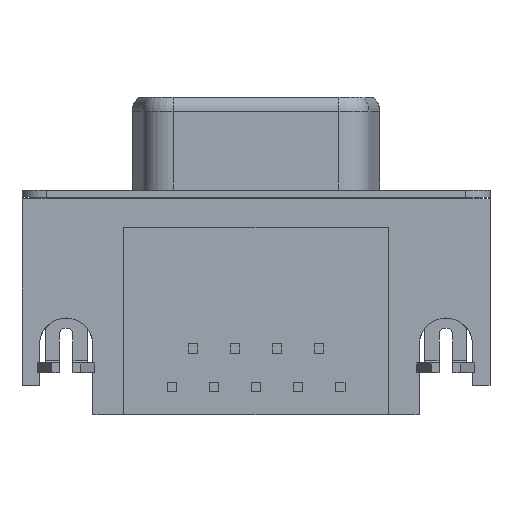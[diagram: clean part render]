
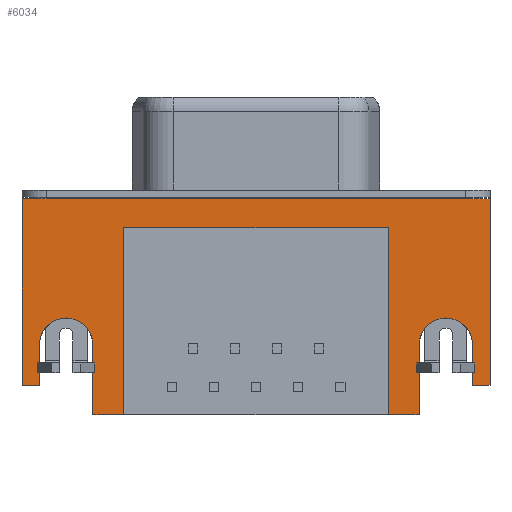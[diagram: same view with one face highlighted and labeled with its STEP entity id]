
A CAD part, front view. The second image highlights one B-rep face of the part: STEP entity #6034.
In plain terms, the highlighted planar face has unit normal (0, -1, 0).
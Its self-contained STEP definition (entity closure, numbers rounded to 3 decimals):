
#17 = DIRECTION ( 'NONE',  ( 0., 0., -1. ) ) ;
#18 = DIRECTION ( 'NONE',  ( 0., 1., 0. ) ) ;
#19 = CARTESIAN_POINT ( 'NONE',  ( -12.495, -7.3, -16.28 ) ) ;
#20 = AXIS2_PLACEMENT_3D ( 'NONE', #19, #18, #17 ) ;
#21 = CIRCLE ( 'NONE', #20, 1.76 ) ;
#22 = CARTESIAN_POINT ( 'NONE',  ( -14.255, -7.3, -16.28 ) ) ;
#61 = DIRECTION ( 'NONE',  ( 1., 0., 0. ) ) ;
#62 = VECTOR ( 'NONE', #61, 1000. ) ;
#63 = CARTESIAN_POINT ( 'NONE',  ( -15.4, -7.3, -18.95 ) ) ;
#64 = LINE ( 'NONE', #63, #62 ) ;
#65 = CARTESIAN_POINT ( 'NONE',  ( 14.255, -7.3, -18.95 ) ) ;
#66 = DIRECTION ( 'NONE',  ( 0., 0., -1. ) ) ;
#67 = VECTOR ( 'NONE', #66, 1000. ) ;
#68 = CARTESIAN_POINT ( 'NONE',  ( 14.255, -7.3, -6.57 ) ) ;
#72 = LINE ( 'NONE', #68, #67 ) ;
#87 = DIRECTION ( 'NONE',  ( 0., 0., 1. ) ) ;
#88 = VECTOR ( 'NONE', #87, 1000. ) ;
#89 = CARTESIAN_POINT ( 'NONE',  ( -14.255, -7.3, -6.57 ) ) ;
#90 = LINE ( 'NONE', #89, #88 ) ;
#5028 = ORIENTED_EDGE ( 'NONE', *, *, #5107, .T. ) ;
#5107 = EDGE_CURVE ( 'NONE', #5840, #5864, #8492, .T. ) ;
#5840 = VERTEX_POINT ( 'NONE', #8488 ) ;
#5842 = ORIENTED_EDGE ( 'NONE', *, *, #5844, .T. ) ;
#5843 = VERTEX_POINT ( 'NONE', #8487 ) ;
#5844 = EDGE_CURVE ( 'NONE', #5843, #5840, #8486, .T. ) ;
#5845 = EDGE_CURVE ( 'NONE', #5846, #5843, #8482, .T. ) ;
#5846 = VERTEX_POINT ( 'NONE', #8478 ) ;
#5847 = ORIENTED_EDGE ( 'NONE', *, *, #5845, .T. ) ;
#5848 = EDGE_CURVE ( 'NONE', #5850, #5856, #8540, .T. ) ;
#5849 = EDGE_CURVE ( 'NONE', #5853, #5846, #8536, .T. ) ;
#5850 = VERTEX_POINT ( 'NONE', #8532 ) ;
#5851 = ORIENTED_EDGE ( 'NONE', *, *, #5848, .T. ) ;
#5852 = VERTEX_POINT ( 'NONE', #8531 ) ;
#5853 = VERTEX_POINT ( 'NONE', #8530 ) ;
#5854 = ORIENTED_EDGE ( 'NONE', *, *, #5855, .T. ) ;
#5855 = EDGE_CURVE ( 'NONE', #5856, #5852, #8529, .T. ) ;
#5856 = VERTEX_POINT ( 'NONE', #8525 ) ;
#5858 = ORIENTED_EDGE ( 'NONE', *, *, #5866, .T. ) ;
#5859 = ORIENTED_EDGE ( 'NONE', *, *, #5849, .T. ) ;
#5860 = EDGE_CURVE ( 'NONE', #5864, #5862, #8524, .T. ) ;
#5862 = VERTEX_POINT ( 'NONE', #8515 ) ;
#5864 = VERTEX_POINT ( 'NONE', #8511 ) ;
#5865 = ORIENTED_EDGE ( 'NONE', *, *, #5860, .T. ) ;
#5866 = EDGE_CURVE ( 'NONE', #5852, #5853, #8571, .T. ) ;
#5867 = ORIENTED_EDGE ( 'NONE', *, *, #6253, .T. ) ;
#5871 = EDGE_CURVE ( 'NONE', #6123, #5872, #8561, .T. ) ;
#5872 = VERTEX_POINT ( 'NONE', #8557 ) ;
#6015 = ORIENTED_EDGE ( 'NONE', *, *, #6021, .F. ) ;
#6016 = ORIENTED_EDGE ( 'NONE', *, *, #6018, .F. ) ;
#6017 = VERTEX_POINT ( 'NONE', #8825 ) ;
#6018 = EDGE_CURVE ( 'NONE', #6123, #6017, #8824, .T. ) ;
#6019 = VERTEX_POINT ( 'NONE', #8820 ) ;
#6020 = VERTEX_POINT ( 'NONE', #8819 ) ;
#6021 = EDGE_CURVE ( 'NONE', #6017, #6020, #8818, .T. ) ;
#6024 = ORIENTED_EDGE ( 'NONE', *, *, #6036, .F. ) ;
#6033 = EDGE_LOOP ( 'NONE', ( #6024, #6015, #6016, #6187, #5867, #6234, #5851, #5854, #5858, #5859, #5847, #5842, #5028, #5865, #6264, #6267 ) ) ;
#6034 = ADVANCED_FACE ( 'NONE', ( #8853 ), #8852, .T. ) ;
#6036 = EDGE_CURVE ( 'NONE', #6020, #6019, #8847, .T. ) ;
#6123 = VERTEX_POINT ( 'NONE', #9003 ) ;
#6187 = ORIENTED_EDGE ( 'NONE', *, *, #5871, .T. ) ;
#6233 = VERTEX_POINT ( 'NONE', #22 ) ;
#6234 = ORIENTED_EDGE ( 'NONE', *, *, #6235, .T. ) ;
#6235 = EDGE_CURVE ( 'NONE', #6233, #5850, #21, .T. ) ;
#6253 = EDGE_CURVE ( 'NONE', #5872, #6233, #90, .T. ) ;
#6264 = ORIENTED_EDGE ( 'NONE', *, *, #6265, .T. ) ;
#6265 = EDGE_CURVE ( 'NONE', #5862, #6266, #72, .T. ) ;
#6266 = VERTEX_POINT ( 'NONE', #65 ) ;
#6267 = ORIENTED_EDGE ( 'NONE', *, *, #6268, .T. ) ;
#6268 = EDGE_CURVE ( 'NONE', #6266, #6019, #64, .T. ) ;
#8478 = CARTESIAN_POINT ( 'NONE',  ( 8.7, -7.3, -8.57 ) ) ;
#8479 = DIRECTION ( 'NONE',  ( 0., 0., -1. ) ) ;
#8480 = VECTOR ( 'NONE', #8479, 1000. ) ;
#8481 = CARTESIAN_POINT ( 'NONE',  ( 8.7, -7.3, -6.57 ) ) ;
#8482 = LINE ( 'NONE', #8481, #8480 ) ;
#8483 = DIRECTION ( 'NONE',  ( 1., 0., 0. ) ) ;
#8484 = VECTOR ( 'NONE', #8483, 1000. ) ;
#8485 = CARTESIAN_POINT ( 'NONE',  ( -15.4, -7.3, -20.88 ) ) ;
#8486 = LINE ( 'NONE', #8485, #8484 ) ;
#8487 = CARTESIAN_POINT ( 'NONE',  ( 8.7, -7.3, -20.88 ) ) ;
#8488 = CARTESIAN_POINT ( 'NONE',  ( 10.735, -7.3, -20.88 ) ) ;
#8489 = DIRECTION ( 'NONE',  ( 0., 0., 1. ) ) ;
#8490 = VECTOR ( 'NONE', #8489, 1000. ) ;
#8491 = CARTESIAN_POINT ( 'NONE',  ( 10.735, -7.3, -6.57 ) ) ;
#8492 = LINE ( 'NONE', #8491, #8490 ) ;
#8511 = CARTESIAN_POINT ( 'NONE',  ( 10.735, -7.3, -16.28 ) ) ;
#8515 = CARTESIAN_POINT ( 'NONE',  ( 14.255, -7.3, -16.28 ) ) ;
#8520 = DIRECTION ( 'NONE',  ( 0., 0., -1. ) ) ;
#8521 = DIRECTION ( 'NONE',  ( 0., 1., 0. ) ) ;
#8522 = CARTESIAN_POINT ( 'NONE',  ( 12.495, -7.3, -16.28 ) ) ;
#8523 = AXIS2_PLACEMENT_3D ( 'NONE', #8522, #8521, #8520 ) ;
#8524 = CIRCLE ( 'NONE', #8523, 1.76 ) ;
#8525 = CARTESIAN_POINT ( 'NONE',  ( -10.735, -7.3, -20.88 ) ) ;
#8526 = DIRECTION ( 'NONE',  ( 1., 0., 0. ) ) ;
#8527 = VECTOR ( 'NONE', #8526, 1000. ) ;
#8528 = CARTESIAN_POINT ( 'NONE',  ( -15.4, -7.3, -20.88 ) ) ;
#8529 = LINE ( 'NONE', #8528, #8527 ) ;
#8530 = CARTESIAN_POINT ( 'NONE',  ( -8.7, -7.3, -8.57 ) ) ;
#8531 = CARTESIAN_POINT ( 'NONE',  ( -8.7, -7.3, -20.88 ) ) ;
#8532 = CARTESIAN_POINT ( 'NONE',  ( -10.735, -7.3, -16.28 ) ) ;
#8533 = DIRECTION ( 'NONE',  ( 1., 0., 0. ) ) ;
#8534 = VECTOR ( 'NONE', #8533, 1000. ) ;
#8535 = CARTESIAN_POINT ( 'NONE',  ( -15.4, -7.3, -8.57 ) ) ;
#8536 = LINE ( 'NONE', #8535, #8534 ) ;
#8537 = DIRECTION ( 'NONE',  ( 0., 0., -1. ) ) ;
#8538 = VECTOR ( 'NONE', #8537, 1000. ) ;
#8539 = CARTESIAN_POINT ( 'NONE',  ( -10.735, -7.3, -6.57 ) ) ;
#8540 = LINE ( 'NONE', #8539, #8538 ) ;
#8557 = CARTESIAN_POINT ( 'NONE',  ( -14.255, -7.3, -18.95 ) ) ;
#8558 = DIRECTION ( 'NONE',  ( 1., 0., 0. ) ) ;
#8559 = VECTOR ( 'NONE', #8558, 1000. ) ;
#8560 = CARTESIAN_POINT ( 'NONE',  ( -15.4, -7.3, -18.95 ) ) ;
#8561 = LINE ( 'NONE', #8560, #8559 ) ;
#8568 = DIRECTION ( 'NONE',  ( 0., 0., 1. ) ) ;
#8569 = VECTOR ( 'NONE', #8568, 1000. ) ;
#8570 = CARTESIAN_POINT ( 'NONE',  ( -8.7, -7.3, -6.57 ) ) ;
#8571 = LINE ( 'NONE', #8570, #8569 ) ;
#8815 = DIRECTION ( 'NONE',  ( 1., 0., 0. ) ) ;
#8816 = VECTOR ( 'NONE', #8815, 1000. ) ;
#8817 = CARTESIAN_POINT ( 'NONE',  ( -15.4, -7.3, -6.67 ) ) ;
#8818 = LINE ( 'NONE', #8817, #8816 ) ;
#8819 = CARTESIAN_POINT ( 'NONE',  ( 15.4, -7.3, -6.67 ) ) ;
#8820 = CARTESIAN_POINT ( 'NONE',  ( 15.4, -7.3, -18.95 ) ) ;
#8821 = DIRECTION ( 'NONE',  ( 0., 0., 1. ) ) ;
#8822 = VECTOR ( 'NONE', #8821, 1000. ) ;
#8823 = CARTESIAN_POINT ( 'NONE',  ( -15.4, -7.3, -6.1 ) ) ;
#8824 = LINE ( 'NONE', #8823, #8822 ) ;
#8825 = CARTESIAN_POINT ( 'NONE',  ( -15.4, -7.3, -6.67 ) ) ;
#8844 = DIRECTION ( 'NONE',  ( 0., 0., -1. ) ) ;
#8845 = VECTOR ( 'NONE', #8844, 1000. ) ;
#8846 = CARTESIAN_POINT ( 'NONE',  ( 15.4, -7.3, -6.1 ) ) ;
#8847 = LINE ( 'NONE', #8846, #8845 ) ;
#8848 = DIRECTION ( 'NONE',  ( 0., 0., -1. ) ) ;
#8849 = DIRECTION ( 'NONE',  ( 0., -1., 0. ) ) ;
#8850 = CARTESIAN_POINT ( 'NONE',  ( -15.4, -7.3, -6.57 ) ) ;
#8851 = AXIS2_PLACEMENT_3D ( 'NONE', #8850, #8849, #8848 ) ;
#8852 = PLANE ( 'NONE',  #8851 ) ;
#8853 = FACE_OUTER_BOUND ( 'NONE', #6033, .T. ) ;
#9003 = CARTESIAN_POINT ( 'NONE',  ( -15.4, -7.3, -18.95 ) ) ;
